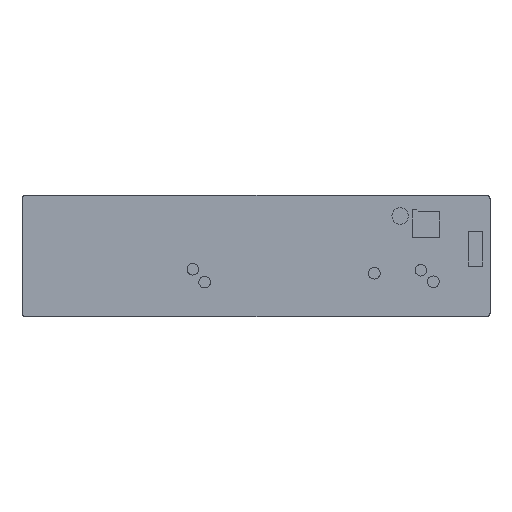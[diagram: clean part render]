
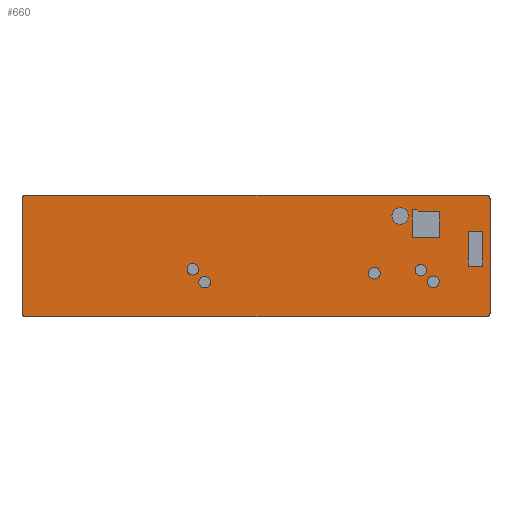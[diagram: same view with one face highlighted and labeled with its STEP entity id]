
A CAD part, top view. The second image highlights one B-rep face of the part: STEP entity #660.
In plain terms, the highlighted planar face has unit normal (0, 0, 1).
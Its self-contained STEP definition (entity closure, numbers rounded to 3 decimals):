
#1=DIRECTION('',(0.,1.,0.));
#2=VECTOR('',#1,61.4);
#3=CARTESIAN_POINT('',(123.8,-30.7,0.));
#4=LINE('',#3,#2);
#5=CARTESIAN_POINT('',(121.8,-30.7,0.));
#6=DIRECTION('',(0.,0.,1.));
#7=DIRECTION('',(0.,-1.,0.));
#8=AXIS2_PLACEMENT_3D('',#5,#6,#7);
#10=DIRECTION('',(1.,0.,0.));
#11=VECTOR('',#10,248.);
#12=CARTESIAN_POINT('',(-126.2,-32.7,0.));
#13=LINE('',#12,#11);
#14=CARTESIAN_POINT('',(-126.2,-30.7,0.));
#15=DIRECTION('',(0.,0.,1.));
#16=DIRECTION('',(-1.,0.,0.));
#17=AXIS2_PLACEMENT_3D('',#14,#15,#16);
#19=DIRECTION('',(0.,-1.,0.));
#20=VECTOR('',#19,61.4);
#21=CARTESIAN_POINT('',(-128.2,30.7,0.));
#22=LINE('',#21,#20);
#23=CARTESIAN_POINT('',(-126.2,30.7,0.));
#24=DIRECTION('',(0.,0.,1.));
#25=DIRECTION('',(0.,1.,0.));
#26=AXIS2_PLACEMENT_3D('',#23,#24,#25);
#28=DIRECTION('',(-1.,0.,0.));
#29=VECTOR('',#28,248.);
#30=CARTESIAN_POINT('',(121.8,32.7,0.));
#31=LINE('',#30,#29);
#32=CARTESIAN_POINT('',(121.8,30.7,0.));
#33=DIRECTION('',(0.,0.,1.));
#34=DIRECTION('',(1.,0.,0.));
#35=AXIS2_PLACEMENT_3D('',#32,#33,#34);
#37=CARTESIAN_POINT('',(93.288,-13.853,0.));
#38=DIRECTION('',(0.,0.,1.));
#39=DIRECTION('',(-1.,0.,0.));
#40=AXIS2_PLACEMENT_3D('',#37,#38,#39);
#42=CARTESIAN_POINT('',(93.288,-13.853,0.));
#43=DIRECTION('',(0.,0.,1.));
#44=DIRECTION('',(1.,0.,0.));
#45=AXIS2_PLACEMENT_3D('',#42,#43,#44);
#47=CARTESIAN_POINT('',(86.608,-7.706,0.));
#48=DIRECTION('',(0.,0.,1.));
#49=DIRECTION('',(-1.,0.,0.));
#50=AXIS2_PLACEMENT_3D('',#47,#48,#49);
#52=CARTESIAN_POINT('',(86.608,-7.706,0.));
#53=DIRECTION('',(0.,0.,1.));
#54=DIRECTION('',(1.,0.,0.));
#55=AXIS2_PLACEMENT_3D('',#52,#53,#54);
#57=CARTESIAN_POINT('',(61.538,-9.332,0.));
#58=DIRECTION('',(0.,0.,1.));
#59=DIRECTION('',(-1.,0.,0.));
#60=AXIS2_PLACEMENT_3D('',#57,#58,#59);
#62=CARTESIAN_POINT('',(61.538,-9.332,0.));
#63=DIRECTION('',(0.,0.,1.));
#64=DIRECTION('',(1.,0.,0.));
#65=AXIS2_PLACEMENT_3D('',#62,#63,#64);
#67=CARTESIAN_POINT('',(-29.851,-14.056,0.));
#68=DIRECTION('',(0.,0.,1.));
#69=DIRECTION('',(-1.,0.,0.));
#70=AXIS2_PLACEMENT_3D('',#67,#68,#69);
#72=CARTESIAN_POINT('',(-29.851,-14.056,0.));
#73=DIRECTION('',(0.,0.,1.));
#74=DIRECTION('',(1.,0.,0.));
#75=AXIS2_PLACEMENT_3D('',#72,#73,#74);
#77=CARTESIAN_POINT('',(-36.227,-7.173,0.));
#78=DIRECTION('',(0.,0.,1.));
#79=DIRECTION('',(-1.,0.,0.));
#80=AXIS2_PLACEMENT_3D('',#77,#78,#79);
#82=CARTESIAN_POINT('',(-36.227,-7.173,0.));
#83=DIRECTION('',(0.,0.,1.));
#84=DIRECTION('',(1.,0.,0.));
#85=AXIS2_PLACEMENT_3D('',#82,#83,#84);
#87=CARTESIAN_POINT('',(75.432,21.555,0.));
#88=DIRECTION('',(0.,0.,1.));
#89=DIRECTION('',(-1.,0.,0.));
#90=AXIS2_PLACEMENT_3D('',#87,#88,#89);
#92=CARTESIAN_POINT('',(75.432,21.555,0.));
#93=DIRECTION('',(0.,0.,1.));
#94=DIRECTION('',(1.,0.,0.));
#95=AXIS2_PLACEMENT_3D('',#92,#93,#94);
#97=DIRECTION('',(1.,0.,0.));
#98=VECTOR('',#97,7.874);
#99=CARTESIAN_POINT('',(112.109,-5.471,0.));
#100=LINE('',#99,#98);
#101=DIRECTION('',(0.,1.,0.));
#102=VECTOR('',#101,18.796);
#103=CARTESIAN_POINT('',(119.983,-5.471,0.));
#104=LINE('',#103,#102);
#105=DIRECTION('',(-1.,0.,0.));
#106=VECTOR('',#105,7.874);
#107=CARTESIAN_POINT('',(119.983,13.325,0.));
#108=LINE('',#107,#106);
#109=DIRECTION('',(0.,-1.,0.));
#110=VECTOR('',#109,18.796);
#111=CARTESIAN_POINT('',(112.109,13.325,0.));
#112=LINE('',#111,#110);
#113=DIRECTION('',(0.,-1.,0.));
#114=VECTOR('',#113,14.859);
#115=CARTESIAN_POINT('',(82.023,24.857,0.));
#116=LINE('',#115,#114);
#117=DIRECTION('',(1.,0.,0.));
#118=VECTOR('',#117,14.732);
#119=CARTESIAN_POINT('',(82.023,9.998,0.));
#120=LINE('',#119,#118);
#121=DIRECTION('',(0.,1.,0.));
#122=VECTOR('',#121,13.805);
#123=CARTESIAN_POINT('',(96.755,9.998,0.));
#124=LINE('',#123,#122);
#125=DIRECTION('',(-1.,0.,0.));
#126=VECTOR('',#125,11.659);
#127=CARTESIAN_POINT('',(96.755,23.802,0.));
#128=LINE('',#127,#126);
#129=DIRECTION('',(-0.62,0.785,0.));
#130=VECTOR('',#129,1.343);
#131=CARTESIAN_POINT('',(85.096,23.802,0.));
#132=LINE('',#131,#130);
#133=DIRECTION('',(-1.,0.,0.));
#134=VECTOR('',#133,2.24);
#135=CARTESIAN_POINT('',(84.264,24.857,0.));
#136=LINE('',#135,#134);
#441=CARTESIAN_POINT('',(123.8,-30.7,0.));
#442=CARTESIAN_POINT('',(123.8,30.7,0.));
#443=VERTEX_POINT('',#441);
#444=VERTEX_POINT('',#442);
#445=CARTESIAN_POINT('',(121.8,32.7,0.));
#446=VERTEX_POINT('',#445);
#447=CARTESIAN_POINT('',(-126.2,32.7,0.));
#448=VERTEX_POINT('',#447);
#449=CARTESIAN_POINT('',(-128.2,30.7,0.));
#450=VERTEX_POINT('',#449);
#451=CARTESIAN_POINT('',(-128.2,-30.7,0.));
#452=VERTEX_POINT('',#451);
#453=CARTESIAN_POINT('',(-126.2,-32.7,0.));
#454=VERTEX_POINT('',#453);
#455=CARTESIAN_POINT('',(121.8,-32.7,0.));
#456=VERTEX_POINT('',#455);
#509=CARTESIAN_POINT('',(90.188,-13.853,0.));
#510=CARTESIAN_POINT('',(96.388,-13.853,0.));
#511=VERTEX_POINT('',#509);
#512=VERTEX_POINT('',#510);
#513=CARTESIAN_POINT('',(83.508,-7.706,0.));
#514=CARTESIAN_POINT('',(89.708,-7.706,0.));
#515=VERTEX_POINT('',#513);
#516=VERTEX_POINT('',#514);
#517=CARTESIAN_POINT('',(58.438,-9.332,0.));
#518=CARTESIAN_POINT('',(64.638,-9.332,0.));
#519=VERTEX_POINT('',#517);
#520=VERTEX_POINT('',#518);
#521=CARTESIAN_POINT('',(-32.951,-14.056,0.));
#522=CARTESIAN_POINT('',(-26.751,-14.056,0.));
#523=VERTEX_POINT('',#521);
#524=VERTEX_POINT('',#522);
#525=CARTESIAN_POINT('',(-39.327,-7.173,0.));
#526=CARTESIAN_POINT('',(-33.127,-7.173,0.));
#527=VERTEX_POINT('',#525);
#528=VERTEX_POINT('',#526);
#541=CARTESIAN_POINT('',(70.987,21.555,0.));
#542=CARTESIAN_POINT('',(79.877,21.555,0.));
#543=VERTEX_POINT('',#541);
#544=VERTEX_POINT('',#542);
#545=CARTESIAN_POINT('',(112.109,-5.471,0.));
#546=CARTESIAN_POINT('',(119.983,-5.471,0.));
#547=VERTEX_POINT('',#545);
#548=VERTEX_POINT('',#546);
#549=CARTESIAN_POINT('',(119.983,13.325,0.));
#550=VERTEX_POINT('',#549);
#551=CARTESIAN_POINT('',(112.109,13.325,0.));
#552=VERTEX_POINT('',#551);
#565=CARTESIAN_POINT('',(82.023,24.857,0.));
#566=CARTESIAN_POINT('',(82.023,9.998,0.));
#567=VERTEX_POINT('',#565);
#568=VERTEX_POINT('',#566);
#569=CARTESIAN_POINT('',(96.755,9.998,0.));
#570=VERTEX_POINT('',#569);
#571=CARTESIAN_POINT('',(96.755,23.802,0.));
#572=VERTEX_POINT('',#571);
#573=CARTESIAN_POINT('',(85.096,23.802,0.));
#574=VERTEX_POINT('',#573);
#575=CARTESIAN_POINT('',(84.264,24.857,0.));
#576=VERTEX_POINT('',#575);
#577=CARTESIAN_POINT('',(0.,0.,0.));
#578=DIRECTION('',(0.,0.,1.));
#579=DIRECTION('',(1.,0.,0.));
#580=AXIS2_PLACEMENT_3D('',#577,#578,#579);
#581=PLANE('',#580);
#583=ORIENTED_EDGE('',*,*,#582,.F.);
#585=ORIENTED_EDGE('',*,*,#584,.F.);
#587=ORIENTED_EDGE('',*,*,#586,.F.);
#589=ORIENTED_EDGE('',*,*,#588,.F.);
#591=ORIENTED_EDGE('',*,*,#590,.F.);
#593=ORIENTED_EDGE('',*,*,#592,.F.);
#595=ORIENTED_EDGE('',*,*,#594,.F.);
#597=ORIENTED_EDGE('',*,*,#596,.F.);
#598=EDGE_LOOP('',(#583,#585,#587,#589,#591,#593,#595,#597));
#599=FACE_OUTER_BOUND('',#598,.F.);
#601=ORIENTED_EDGE('',*,*,#600,.T.);
#603=ORIENTED_EDGE('',*,*,#602,.T.);
#604=EDGE_LOOP('',(#601,#603));
#605=FACE_BOUND('',#604,.F.);
#607=ORIENTED_EDGE('',*,*,#606,.T.);
#609=ORIENTED_EDGE('',*,*,#608,.T.);
#610=EDGE_LOOP('',(#607,#609));
#611=FACE_BOUND('',#610,.F.);
#613=ORIENTED_EDGE('',*,*,#612,.T.);
#615=ORIENTED_EDGE('',*,*,#614,.T.);
#616=EDGE_LOOP('',(#613,#615));
#617=FACE_BOUND('',#616,.F.);
#619=ORIENTED_EDGE('',*,*,#618,.T.);
#621=ORIENTED_EDGE('',*,*,#620,.T.);
#622=EDGE_LOOP('',(#619,#621));
#623=FACE_BOUND('',#622,.F.);
#625=ORIENTED_EDGE('',*,*,#624,.T.);
#627=ORIENTED_EDGE('',*,*,#626,.T.);
#628=EDGE_LOOP('',(#625,#627));
#629=FACE_BOUND('',#628,.F.);
#631=ORIENTED_EDGE('',*,*,#630,.T.);
#633=ORIENTED_EDGE('',*,*,#632,.T.);
#634=EDGE_LOOP('',(#631,#633));
#635=FACE_BOUND('',#634,.F.);
#637=ORIENTED_EDGE('',*,*,#636,.T.);
#639=ORIENTED_EDGE('',*,*,#638,.T.);
#641=ORIENTED_EDGE('',*,*,#640,.T.);
#643=ORIENTED_EDGE('',*,*,#642,.T.);
#644=EDGE_LOOP('',(#637,#639,#641,#643));
#645=FACE_BOUND('',#644,.F.);
#647=ORIENTED_EDGE('',*,*,#646,.T.);
#649=ORIENTED_EDGE('',*,*,#648,.T.);
#651=ORIENTED_EDGE('',*,*,#650,.T.);
#653=ORIENTED_EDGE('',*,*,#652,.T.);
#655=ORIENTED_EDGE('',*,*,#654,.T.);
#657=ORIENTED_EDGE('',*,*,#656,.T.);
#658=EDGE_LOOP('',(#647,#649,#651,#653,#655,#657));
#659=FACE_BOUND('',#658,.F.);
#9=CIRCLE('',#8,2.);
#18=CIRCLE('',#17,2.);
#27=CIRCLE('',#26,2.);
#36=CIRCLE('',#35,2.);
#41=CIRCLE('',#40,3.1);
#46=CIRCLE('',#45,3.1);
#51=CIRCLE('',#50,3.1);
#56=CIRCLE('',#55,3.1);
#61=CIRCLE('',#60,3.1);
#66=CIRCLE('',#65,3.1);
#71=CIRCLE('',#70,3.1);
#76=CIRCLE('',#75,3.1);
#81=CIRCLE('',#80,3.1);
#86=CIRCLE('',#85,3.1);
#91=CIRCLE('',#90,4.445);
#96=CIRCLE('',#95,4.445);
#582=EDGE_CURVE('',#443,#444,#4,.T.);
#584=EDGE_CURVE('',#456,#443,#9,.T.);
#586=EDGE_CURVE('',#454,#456,#13,.T.);
#588=EDGE_CURVE('',#452,#454,#18,.T.);
#590=EDGE_CURVE('',#450,#452,#22,.T.);
#592=EDGE_CURVE('',#448,#450,#27,.T.);
#594=EDGE_CURVE('',#446,#448,#31,.T.);
#596=EDGE_CURVE('',#444,#446,#36,.T.);
#600=EDGE_CURVE('',#511,#512,#41,.T.);
#602=EDGE_CURVE('',#512,#511,#46,.T.);
#606=EDGE_CURVE('',#515,#516,#51,.T.);
#608=EDGE_CURVE('',#516,#515,#56,.T.);
#612=EDGE_CURVE('',#519,#520,#61,.T.);
#614=EDGE_CURVE('',#520,#519,#66,.T.);
#618=EDGE_CURVE('',#523,#524,#71,.T.);
#620=EDGE_CURVE('',#524,#523,#76,.T.);
#624=EDGE_CURVE('',#527,#528,#81,.T.);
#626=EDGE_CURVE('',#528,#527,#86,.T.);
#630=EDGE_CURVE('',#543,#544,#91,.T.);
#632=EDGE_CURVE('',#544,#543,#96,.T.);
#636=EDGE_CURVE('',#547,#548,#100,.T.);
#638=EDGE_CURVE('',#548,#550,#104,.T.);
#640=EDGE_CURVE('',#550,#552,#108,.T.);
#642=EDGE_CURVE('',#552,#547,#112,.T.);
#646=EDGE_CURVE('',#567,#568,#116,.T.);
#648=EDGE_CURVE('',#568,#570,#120,.T.);
#650=EDGE_CURVE('',#570,#572,#124,.T.);
#652=EDGE_CURVE('',#572,#574,#128,.T.);
#654=EDGE_CURVE('',#574,#576,#132,.T.);
#656=EDGE_CURVE('',#576,#567,#136,.T.);
#660=ADVANCED_FACE('',(#599,#605,#611,#617,#623,#629,#635,#645,#659),#581,.T.);
